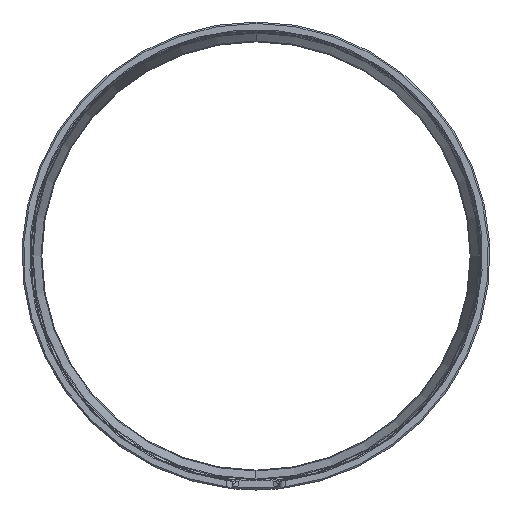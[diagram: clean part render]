
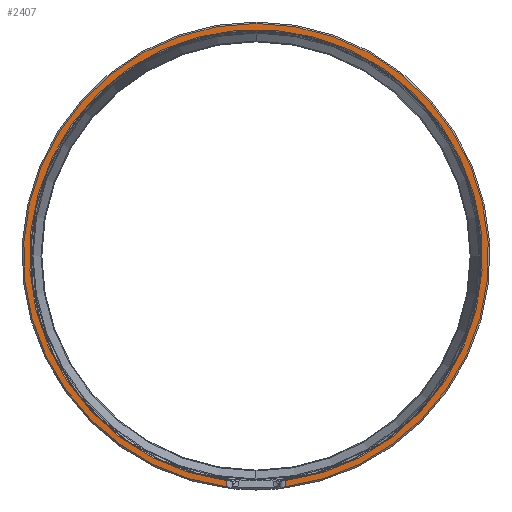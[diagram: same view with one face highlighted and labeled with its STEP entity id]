
A CAD part, left-side view. The second image highlights one B-rep face of the part: STEP entity #2407.
In plain terms, the highlighted planar face has unit normal (-1, 0, 0).
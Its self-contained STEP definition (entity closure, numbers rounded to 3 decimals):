
#4 = CIRCLE ( 'NONE', #5889, 79.325 ) ;
#164 = CARTESIAN_POINT ( 'NONE',  ( -500., 0., 0. ) ) ;
#232 = CARTESIAN_POINT ( 'NONE',  ( -500., -10.2, -80.809 ) ) ;
#413 = VERTEX_POINT ( 'NONE', #232 ) ;
#544 = CARTESIAN_POINT ( 'NONE',  ( -500., -10.2, -78.666 ) ) ;
#549 = VERTEX_POINT ( 'NONE', #2600 ) ;
#802 = EDGE_CURVE ( 'NONE', #850, #2208, #5379, .T. ) ;
#850 = VERTEX_POINT ( 'NONE', #5262 ) ;
#867 = ORIENTED_EDGE ( 'NONE', *, *, #4619, .F. ) ;
#897 = DIRECTION ( 'NONE',  ( 0., 0., 1. ) ) ;
#1027 = DIRECTION ( 'NONE',  ( 0., 0., -1. ) ) ;
#1039 = ORIENTED_EDGE ( 'NONE', *, *, #802, .T. ) ;
#1445 = CARTESIAN_POINT ( 'NONE',  ( -500., -10.2, -81.95 ) ) ;
#1489 = PLANE ( 'NONE',  #2531 ) ;
#1719 = DIRECTION ( 'NONE',  ( 0., 0., 1. ) ) ;
#1918 = EDGE_LOOP ( 'NONE', ( #4830, #3864, #1039, #4318, #867 ) ) ;
#2186 = VERTEX_POINT ( 'NONE', #544 ) ;
#2208 = VERTEX_POINT ( 'NONE', #2426 ) ;
#2256 = AXIS2_PLACEMENT_3D ( 'NONE', #5561, #3245, #897 ) ;
#2407 = ADVANCED_FACE ( 'NONE', ( #5695 ), #1489, .T. ) ;
#2426 = CARTESIAN_POINT ( 'NONE',  ( -500., 10.2, -80.809 ) ) ;
#2531 = AXIS2_PLACEMENT_3D ( 'NONE', #5562, #4251, #1027 ) ;
#2600 = CARTESIAN_POINT ( 'NONE',  ( -500., 10.2, -78.666 ) ) ;
#2735 = AXIS2_PLACEMENT_3D ( 'NONE', #164, #3915, #5199 ) ;
#2858 = VECTOR ( 'NONE', #3853, 1000. ) ;
#3009 = LINE ( 'NONE', #4863, #4509 ) ;
#3141 = EDGE_CURVE ( 'NONE', #2208, #549, #3009, .T. ) ;
#3245 = DIRECTION ( 'NONE',  ( -1., 0., 0. ) ) ;
#3757 = EDGE_CURVE ( 'NONE', #413, #850, #4114, .T. ) ;
#3853 = DIRECTION ( 'NONE',  ( 0., 0., 1. ) ) ;
#3862 = DIRECTION ( 'NONE',  ( 0., 0., 1. ) ) ;
#3864 = ORIENTED_EDGE ( 'NONE', *, *, #3757, .T. ) ;
#3915 = DIRECTION ( 'NONE',  ( -1., 0., 0. ) ) ;
#4114 = CIRCLE ( 'NONE', #2256, 81.45 ) ;
#4251 = DIRECTION ( 'NONE',  ( -1., 0., 0. ) ) ;
#4318 = ORIENTED_EDGE ( 'NONE', *, *, #3141, .T. ) ;
#4509 = VECTOR ( 'NONE', #3862, 1000. ) ;
#4619 = EDGE_CURVE ( 'NONE', #2186, #549, #4, .T. ) ;
#4830 = ORIENTED_EDGE ( 'NONE', *, *, #5603, .F. ) ;
#4863 = CARTESIAN_POINT ( 'NONE',  ( -500., 10.2, -81.95 ) ) ;
#5199 = DIRECTION ( 'NONE',  ( 0., 0., 1. ) ) ;
#5262 = CARTESIAN_POINT ( 'NONE',  ( -500., 0., 81.45 ) ) ;
#5379 = CIRCLE ( 'NONE', #2735, 81.45 ) ;
#5561 = CARTESIAN_POINT ( 'NONE',  ( -500., 0., 0. ) ) ;
#5562 = CARTESIAN_POINT ( 'NONE',  ( -500., 0., 0. ) ) ;
#5603 = EDGE_CURVE ( 'NONE', #413, #2186, #5748, .T. ) ;
#5695 = FACE_OUTER_BOUND ( 'NONE', #1918, .T. ) ;
#5748 = LINE ( 'NONE', #1445, #2858 ) ;
#5889 = AXIS2_PLACEMENT_3D ( 'NONE', #5902, #5929, #1719 ) ;
#5902 = CARTESIAN_POINT ( 'NONE',  ( -500., 0., 0. ) ) ;
#5929 = DIRECTION ( 'NONE',  ( -1., 0., 0. ) ) ;
